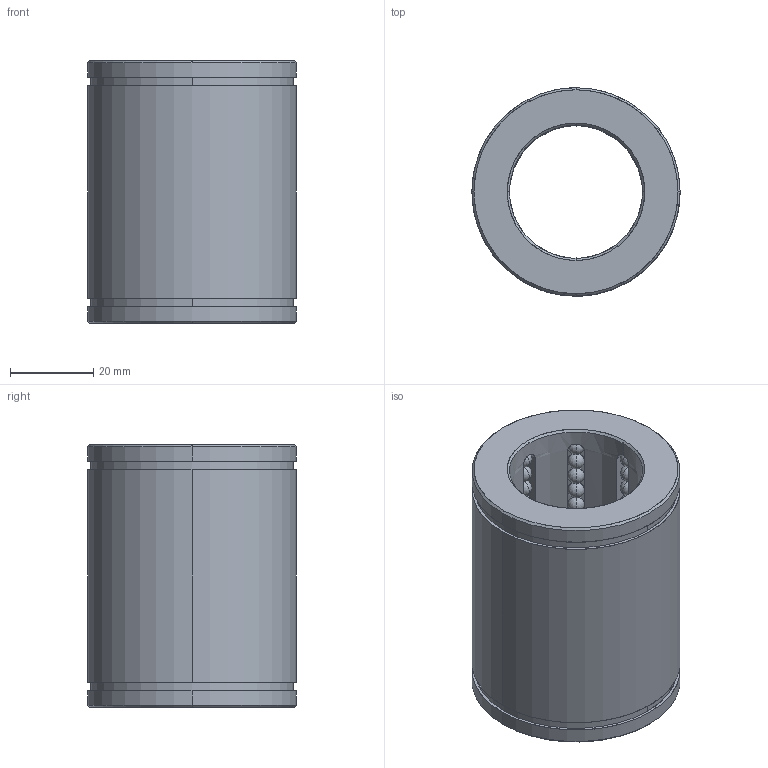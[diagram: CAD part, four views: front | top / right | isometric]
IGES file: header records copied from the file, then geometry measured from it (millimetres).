
Start section: START RECORD GO HERE.
Global section: file name: B8033263.igs; native system: DASSAULT SYSTEMES CATIA V5 R20 - www.3ds.com; preprocessor: CATIA Version 5 Release 20 ; author: Utente; organization: NB04-ASUS; date: 20200419.161354; units: millimetre
Bounding box: 50 x 50 x 63 mm (x, y, z)
Surface area: 27672.7 mm2 (no closed solid volume)
Topology: 0 solids, 0 shells, 490 faces, 2020 edges, 1188 vertices
Faces by surface type: revolution 460, plane 30
